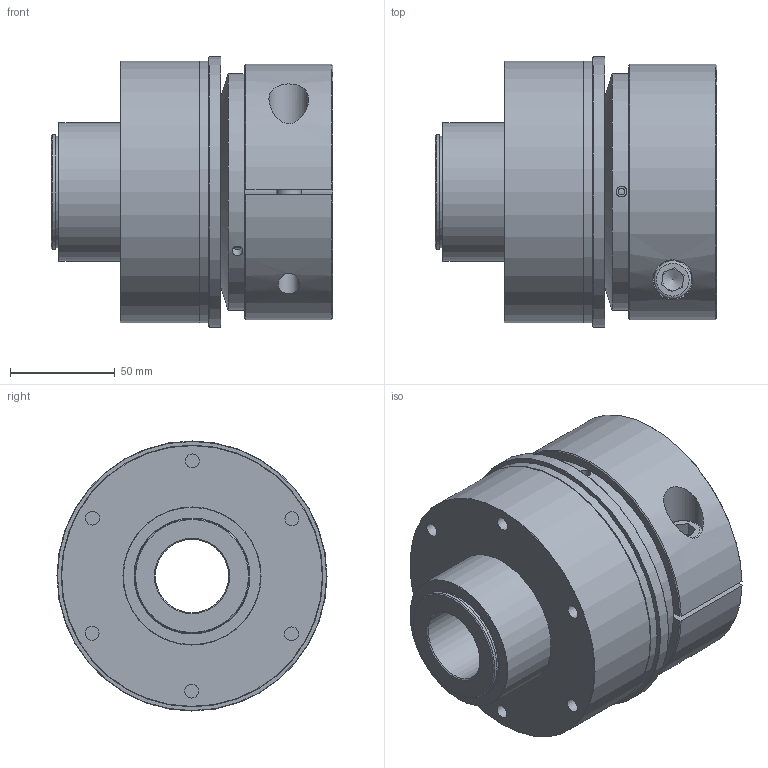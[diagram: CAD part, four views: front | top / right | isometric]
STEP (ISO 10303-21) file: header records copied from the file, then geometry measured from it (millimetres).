
FILE_DESCRIPTION( ( 'Unknown' ), '1' );
FILE_NAME( 'C:/Users/TWalzel/Documents/CAD-Daten/KBK-CK/500/KBK CK-500.stp', 'Unknown', ( 'Unknown' ), ( 'Unknown' ), 'PSStep 16.0.42', 'Unknown', ' ' );
FILE_SCHEMA( ( 'AUTOMOTIVE_DESIGN { 1 0 10303 214 1 1 1 1 }' ) );
Length unit declared in the file: millimetre
Products named in the file (10): Klemmnabe 500; Stellring 500; Druckring 500; Assem1; Flansch-Gleitlager  CK-500; Grundkörper CK-500_1; Socket Head Cap Screw_DIN_DIN 912 M12 x 40 --- 40N
Assembly tree (9 placements, depth 3):
  Assem1
    Flansch-Gleitlager  CK-500
    Grundkörper CK-500_1
    Socket Head Cap Screw_DIN_DIN 912 M12 x 40 --- 40N
    Klemmnabe 500
      Klemmnabe 500
    Stellring 500
      Stellring 500
    Druckring 500
      Druckring 500
Bounding box: 134.5 x 129 x 129 mm (x, y, z)
Volume: 1142729 mm3; surface area: 196148.4 mm2
Topology: 6 solids, 6 shells, 126 faces, 265 edges, 170 vertices
Faces by surface type: plane 48, cylinder 45, cone 29, torus 4
Full cylindrical faces by diameter (mm): 3.242 x3, 5.1 x3, 5.2 x3, 6.647 x12, 10.106 x1, 12 x1, 12.5 x1, 18 x1, 19 x1, 35 x1, 53.5 x1, 55 x3, 66 x1, 70 x1, 86 x2, 104.5 x1, 113 x1, 114 x1, 125 x2, 129 x1
Entity records: 4564 total; most frequent: CARTESIAN_POINT 972, DIRECTION 556, ORIENTED_EDGE 346, AXIS2_PLACEMENT_3D 252, EDGE_LOOP 232, EDGE_CURVE 173, FACE_OUTER_BOUND 171, VERTEX_POINT 148
